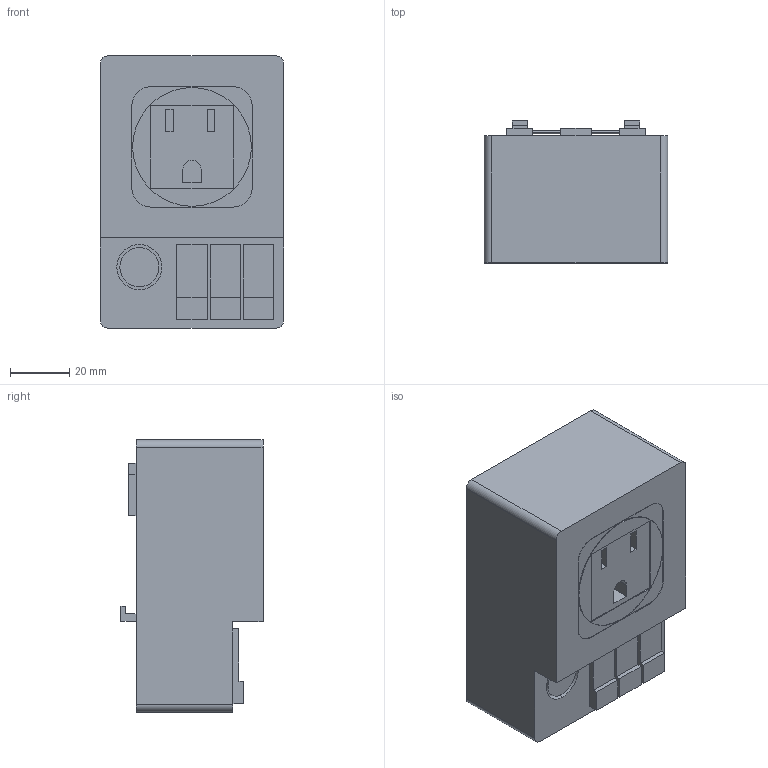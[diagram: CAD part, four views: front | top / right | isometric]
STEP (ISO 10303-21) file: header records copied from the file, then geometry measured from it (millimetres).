
FILE_DESCRIPTION (( 'STEP AP203' ), '1' );
FILE_NAME ('LPS10USA.STEP', '2018-03-28T07:40:29', ( '' ), ( '' ), 'SwSTEP 2.0', 'SolidWorks 2017', '' );
FILE_SCHEMA (( 'CONFIG_CONTROL_DESIGN' ));
Length unit declared in the file: millimetre
Products named in the file (2): LPS10USA
Bounding box: 62 x 48 x 92 mm (x, y, z)
Volume: 227130.2 mm3; surface area: 26080.7 mm2
Topology: 1 solids, 1 shells, 140 faces, 353 edges, 230 vertices
Faces by surface type: plane 108, cylinder 26, bspline 6
Entity records: 4372 total; most frequent: CARTESIAN_POINT 815, ORIENTED_EDGE 706, DIRECTION 683, EDGE_CURVE 353, VECTOR 295, LINE 295, VERTEX_POINT 230, AXIS2_PLACEMENT_3D 194
